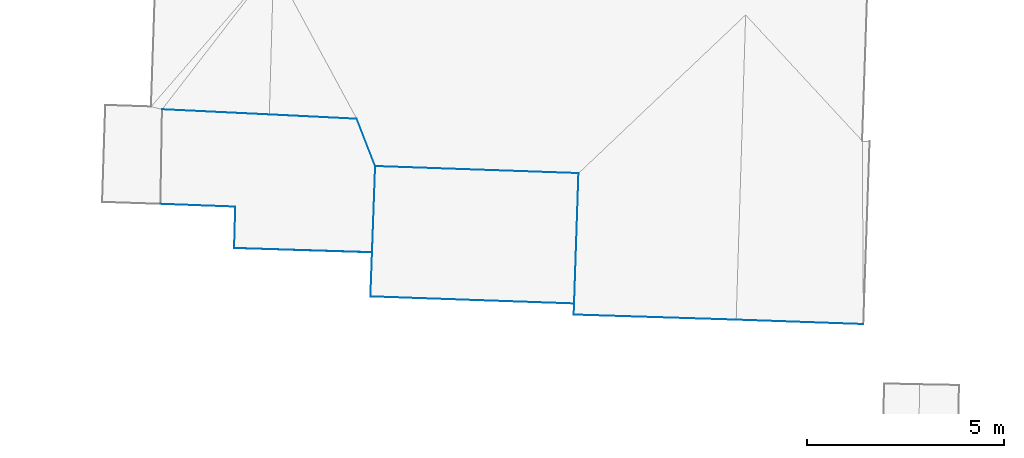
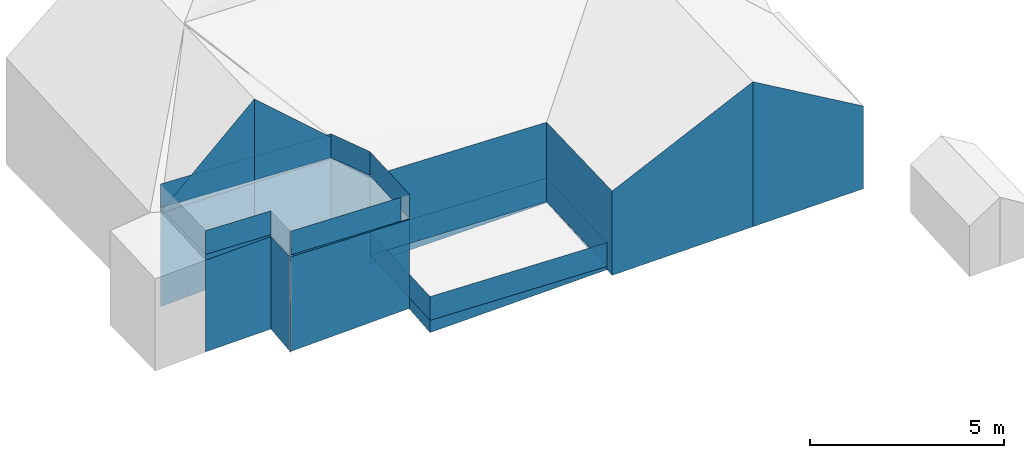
# Not in any storey, part 11 of 59: 42 walls.
"""IFC4 building model written with IfcOpenShell, lengths in metres."""

from ifc_helpers import new_model, entity, si_unit, converted_unit, origin, place, context, subcontext, project, spatial, face_set, surface_model, element, save


model = new_model("IFC4")

# Units and contexts
model_context = context("Model", 3, precision=1e-05, world=origin())
body_context = subcontext(model_context, "Body", "Model", "MODEL_VIEW")
ifc_project = project(units=[converted_unit("PLANEANGLEUNIT", "DEGREE", entity("IfcRatioMeasure", 0.0174532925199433), si_unit("PLANEANGLEUNIT", "RADIAN"), dimensions=[0, 0, 0, 0, 0, 0, 0]), si_unit("AREAUNIT", "SQUARE_METRE"), si_unit("LENGTHUNIT", "METRE")], contexts=[model_context])

# Site, building
site_placement = place(None, origin())
site = spatial("IfcSite", under=ifc_project, at=site_placement, Name="_site")
building_placement = place(site_placement, origin())
building = spatial("IfcBuilding", under=site, at=building_placement, Name="_building")

# Walls
wall_1_placement = place(building_placement, origin())
element("IfcWall", 1, at=wall_1_placement, inside=building, Name="Wall", PredefinedType="NOTDEFINED", context=body_context, shape_type="SurfaceModel", body=[
    surface_model("IfcFaceBasedSurfaceModel", [(115.01, 104.15, 217.53), (112.79, 104.259, 219.45), (112.79, 104.259, 216.808), (115.01, 104.15, 216.856)], [face_set([[[0, 1, 2, 3]]])]),
])
wall_2_placement = place(building_placement, origin())
element("IfcWall", 2, at=wall_2_placement, inside=building, Name="Wall", PredefinedType="NOTDEFINED", context=body_context, shape_type="SurfaceModel", body=[
    surface_model("IfcFaceBasedSurfaceModel", [(112.79, 104.259, 219.45), (110.07, 104.391, 216.76), (110.07, 104.391, 216.71), (112.79, 104.259, 216.808)], [face_set([[[0, 1, 2, 3]]])]),
])
wall_3_placement = place(building_placement, origin())
element("IfcWall", 3, at=wall_3_placement, inside=building, Name="Wall", PredefinedType="NOTDEFINED", context=body_context, shape_type="SurfaceModel", body=[
    surface_model("IfcFaceBasedSurfaceModel", [(115.48, 102.949, 216.89), (115.4, 100.76, 216.89), (115.4, 100.76, 217.64), (115.48, 102.949, 217.64)], [face_set([[[0, 1, 2, 3]]])]),
])
wall_4_placement = place(building_placement, origin())
element("IfcWall", 4, at=wall_4_placement, inside=building, Name="Wall", PredefinedType="NOTDEFINED", context=body_context, shape_type="SurfaceModel", body=[
    surface_model("IfcFaceBasedSurfaceModel", [(115.01, 104.15, 216.89), (115.48, 102.949, 216.89), (115.48, 102.949, 217.64), (115.01, 104.15, 217.64)], [face_set([[[0, 1, 2, 3]]])]),
])
wall_5_placement = place(building_placement, origin())
element("IfcWall", 5, at=wall_5_placement, inside=building, Name="Wall", PredefinedType="NOTDEFINED", context=body_context, shape_type="SurfaceModel", body=[
    surface_model("IfcFaceBasedSurfaceModel", [(112.79, 104.26, 216.89), (115.01, 104.15, 216.89), (115.01, 104.15, 217.64), (112.79, 104.26, 217.64)], [face_set([[[0, 1, 2, 3]]])]),
])
wall_6_placement = place(building_placement, origin())
element("IfcWall", 6, at=wall_6_placement, inside=building, Name="Wall", PredefinedType="NOTDEFINED", context=body_context, shape_type="SurfaceModel", body=[
    surface_model("IfcFaceBasedSurfaceModel", [(110.07, 104.391, 216.89), (112.79, 104.26, 216.89), (112.79, 104.26, 217.64), (110.07, 104.391, 217.64)], [face_set([[[0, 1, 2, 3]]])]),
])
wall_7_placement = place(building_placement, origin())
element("IfcWall", 7, at=wall_7_placement, inside=building, Name="Wall", PredefinedType="NOTDEFINED", context=body_context, shape_type="SurfaceModel", body=[
    surface_model("IfcFaceBasedSurfaceModel", [(111.93, 101.92, 216.89), (110.03, 101.99, 216.89), (110.03, 101.99, 217.64), (111.93, 101.92, 217.64)], [face_set([[[0, 1, 2, 3]]])]),
])
wall_8_placement = place(building_placement, origin())
element("IfcWall", 8, at=wall_8_placement, inside=building, Name="Wall", PredefinedType="NOTDEFINED", context=body_context, shape_type="SurfaceModel", body=[
    surface_model("IfcFaceBasedSurfaceModel", [(115.15, 100.77, 216.89), (111.93, 100.869, 216.89), (111.93, 100.869, 217.64), (115.15, 100.77, 217.64)], [face_set([[[0, 1, 2, 3]]])]),
])
wall_9_placement = place(building_placement, origin())
element("IfcWall", 9, at=wall_9_placement, inside=building, Name="Wall", PredefinedType="NOTDEFINED", context=body_context, shape_type="SurfaceModel", body=[
    surface_model("IfcFaceBasedSurfaceModel", [(115.48, 102.949, 216.89), (115.4, 100.76, 216.89), (115.4, 100.76, 217.64), (115.48, 102.949, 217.64)], [face_set([[[0, 1, 2, 3]]])]),
])
wall_10_placement = place(building_placement, origin())
element("IfcWall", 10, at=wall_10_placement, inside=building, Name="Wall", PredefinedType="NOTDEFINED", context=body_context, shape_type="SurfaceModel", body=[
    surface_model("IfcFaceBasedSurfaceModel", [(115.01, 104.15, 216.89), (115.48, 102.949, 216.89), (115.48, 102.949, 217.64), (115.01, 104.15, 217.64)], [face_set([[[0, 1, 2, 3]]])]),
])
wall_11_placement = place(building_placement, origin())
element("IfcWall", 11, at=wall_11_placement, inside=building, Name="Wall", PredefinedType="NOTDEFINED", context=body_context, shape_type="SurfaceModel", body=[
    surface_model("IfcFaceBasedSurfaceModel", [(112.79, 104.26, 216.89), (115.01, 104.15, 216.89), (115.01, 104.15, 217.64), (112.79, 104.26, 217.64)], [face_set([[[0, 1, 2, 3]]])]),
])
wall_12_placement = place(building_placement, origin())
element("IfcWall", 12, at=wall_12_placement, inside=building, Name="Wall", PredefinedType="NOTDEFINED", context=body_context, shape_type="SurfaceModel", body=[
    surface_model("IfcFaceBasedSurfaceModel", [(110.07, 104.391, 216.89), (112.79, 104.26, 216.89), (112.79, 104.26, 217.64), (110.07, 104.391, 217.64)], [face_set([[[0, 1, 2, 3]]])]),
])
wall_13_placement = place(building_placement, origin())
element("IfcWall", 13, at=wall_13_placement, inside=building, Name="Wall", PredefinedType="NOTDEFINED", context=body_context, shape_type="SurfaceModel", body=[
    surface_model("IfcFaceBasedSurfaceModel", [(111.93, 101.92, 216.89), (110.03, 101.99, 216.89), (110.03, 101.99, 217.64), (111.93, 101.92, 217.64)], [face_set([[[0, 1, 2, 3]]])]),
])
wall_14_placement = place(building_placement, origin())
element("IfcWall", 14, at=wall_14_placement, inside=building, Name="Wall", PredefinedType="NOTDEFINED", context=body_context, shape_type="SurfaceModel", body=[
    surface_model("IfcFaceBasedSurfaceModel", [(115.15, 100.77, 216.89), (111.93, 100.869, 216.89), (111.93, 100.869, 217.64), (115.15, 100.77, 217.64)], [face_set([[[0, 1, 2, 3]]])]),
])
wall_15_placement = place(building_placement, origin())
element("IfcWall", 15, at=wall_15_placement, inside=building, Name="Wall", PredefinedType="NOTDEFINED", context=body_context, shape_type="SurfaceModel", body=[
    surface_model("IfcFaceBasedSurfaceModel", [(115.48, 102.949, 216.86), (115.01, 104.15, 217.53), (115.01, 104.15, 216.856), (115.48, 102.949, 216.81)], [face_set([[[0, 1, 2, 3]]])]),
])
wall_16_placement = place(building_placement, origin())
element("IfcWall", 16, at=wall_16_placement, inside=building, Name="Wall", PredefinedType="NOTDEFINED", context=body_context, shape_type="SurfaceModel", body=[
    surface_model("IfcFaceBasedSurfaceModel", [(127.87, 98.939, 217.17), (124.64, 99.051, 219.0), (124.64, 99.051, 214.43), (127.87, 98.939, 214.564)], [face_set([[[0, 1, 2, 3]]])]),
])
wall_17_placement = place(building_placement, origin())
element("IfcWall", 17, at=wall_17_placement, inside=building, Name="Wall", PredefinedType="NOTDEFINED", context=body_context, shape_type="SurfaceModel", body=[
    surface_model("IfcFaceBasedSurfaceModel", [(124.64, 99.051, 219.0), (120.52, 99.18, 216.92), (120.52, 99.18, 214.261), (124.64, 99.051, 214.43)], [face_set([[[0, 1, 2, 3]]])]),
])
wall_18_placement = place(building_placement, origin())
element("IfcWall", 18, at=wall_18_placement, inside=building, Name="Wall", PredefinedType="NOTDEFINED", context=body_context, shape_type="SurfaceModel", body=[
    surface_model("IfcFaceBasedSurfaceModel", [(120.52, 99.18, 216.92), (120.64, 102.77, 216.87), (120.64, 102.77, 214.328), (120.52, 99.18, 214.261)], [face_set([[[0, 1, 2, 3]]])]),
])
wall_19_placement = place(building_placement, origin())
element("IfcWall", 19, at=wall_19_placement, inside=building, Name="Wall", PredefinedType="NOTDEFINED", context=body_context, shape_type="SurfaceModel", body=[
    surface_model("IfcFaceBasedSurfaceModel", [(115.01, 104.15, 216.89), (115.48, 102.949, 216.89), (115.48, 102.949, 214.102), (115.01, 104.15, 214.087)], [face_set([[[0, 1, 2, 3]]])]),
])
wall_20_placement = place(building_placement, origin())
element("IfcWall", 20, at=wall_20_placement, inside=building, Name="Wall", PredefinedType="NOTDEFINED", context=body_context, shape_type="SurfaceModel", body=[
    surface_model("IfcFaceBasedSurfaceModel", [(120.64, 102.77, 216.87), (115.48, 102.949, 216.86), (115.48, 102.949, 214.102), (120.64, 102.77, 214.328)], [face_set([[[0, 1, 2, 3]]])]),
])
wall_21_placement = place(building_placement, origin())
element("IfcWall", 21, at=wall_21_placement, inside=building, Name="Wall", PredefinedType="NOTDEFINED", context=body_context, shape_type="SurfaceModel", body=[
    surface_model("IfcFaceBasedSurfaceModel", [(115.48, 102.949, 216.89), (115.4, 100.76, 216.89), (115.4, 100.76, 214.059), (115.48, 102.949, 214.102)], [face_set([[[0, 1, 2, 3]]])]),
])
wall_22_placement = place(building_placement, origin())
element("IfcWall", 22, at=wall_22_placement, inside=building, Name="Wall", PredefinedType="NOTDEFINED", context=body_context, shape_type="SurfaceModel", body=[
    surface_model("IfcFaceBasedSurfaceModel", [(115.4, 100.76, 216.89), (115.15, 100.77, 216.89), (115.15, 100.77, 214.043), (115.4, 100.76, 214.059)], [face_set([[[0, 1, 2, 3]]])]),
])
wall_23_placement = place(building_placement, origin())
element("IfcWall", 23, at=wall_23_placement, inside=building, Name="Wall", PredefinedType="NOTDEFINED", context=body_context, shape_type="SurfaceModel", body=[
    surface_model("IfcFaceBasedSurfaceModel", [(115.48, 102.949, 216.86), (115.4, 100.76, 216.86), (115.4, 100.76, 214.059), (115.48, 102.949, 214.102)], [face_set([[[0, 1, 2, 3]]])]),
])
wall_24_placement = place(building_placement, origin())
element("IfcWall", 24, at=wall_24_placement, inside=building, Name="Wall", PredefinedType="NOTDEFINED", context=body_context, shape_type="SurfaceModel", body=[
    surface_model("IfcFaceBasedSurfaceModel", [(112.79, 104.26, 216.89), (115.01, 104.15, 216.89), (115.01, 104.15, 214.087), (112.79, 104.26, 213.997)], [face_set([[[0, 1, 2, 3]]])]),
])
wall_25_placement = place(building_placement, origin())
element("IfcWall", 25, at=wall_25_placement, inside=building, Name="Wall", PredefinedType="NOTDEFINED", context=body_context, shape_type="SurfaceModel", body=[
    surface_model("IfcFaceBasedSurfaceModel", [(115.15, 100.77, 216.89), (111.93, 100.869, 216.89), (111.93, 100.869, 213.851), (115.15, 100.77, 214.043)], [face_set([[[0, 1, 2, 3]]])]),
])
wall_26_placement = place(building_placement, origin())
element("IfcWall", 26, at=wall_26_placement, inside=building, Name="Wall", PredefinedType="NOTDEFINED", context=body_context, shape_type="SurfaceModel", body=[
    surface_model("IfcFaceBasedSurfaceModel", [(111.93, 101.92, 216.89), (110.03, 101.99, 216.89), (110.03, 101.99, 213.82), (111.93, 101.92, 213.915)], [face_set([[[0, 1, 2, 3]]])]),
])
wall_27_placement = place(building_placement, origin())
element("IfcWall", 27, at=wall_27_placement, inside=building, Name="Wall", PredefinedType="NOTDEFINED", context=body_context, shape_type="SurfaceModel", body=[
    surface_model("IfcFaceBasedSurfaceModel", [(115.4, 100.76, 216.86), (111.9, 100.869, 216.83), (111.9, 100.869, 213.85), (115.4, 100.76, 214.059)], [face_set([[[0, 1, 2, 3]]])]),
])
wall_28_placement = place(building_placement, origin())
element("IfcWall", 28, at=wall_28_placement, inside=building, Name="Wall", PredefinedType="NOTDEFINED", context=body_context, shape_type="SurfaceModel", body=[
    surface_model("IfcFaceBasedSurfaceModel", [(111.9, 100.869, 216.83), (111.93, 101.92, 216.83), (111.93, 101.92, 213.915), (111.9, 100.869, 213.85)], [face_set([[[0, 1, 2, 3]]])]),
])
wall_29_placement = place(building_placement, origin())
element("IfcWall", 29, at=wall_29_placement, inside=building, Name="Wall", PredefinedType="NOTDEFINED", context=body_context, shape_type="SurfaceModel", body=[
    surface_model("IfcFaceBasedSurfaceModel", [(110.07, 104.391, 216.89), (112.79, 104.26, 216.89), (112.79, 104.26, 213.997), (110.07, 104.391, 213.774)], [face_set([[[0, 1, 2, 3]]])]),
])
wall_30_placement = place(building_placement, origin())
element("IfcWall", 30, at=wall_30_placement, inside=building, Name="Wall", PredefinedType="NOTDEFINED", context=body_context, shape_type="SurfaceModel", body=[
    surface_model("IfcFaceBasedSurfaceModel", [(111.93, 101.92, 216.83), (110.03, 101.99, 216.71), (110.03, 101.99, 213.82), (111.93, 101.92, 213.915)], [face_set([[[0, 1, 2, 3]]])]),
])
wall_31_placement = place(building_placement, origin())
element("IfcWall", 31, at=wall_31_placement, inside=building, Name="Wall", PredefinedType="NOTDEFINED", context=body_context, shape_type="SurfaceModel", body=[
    surface_model("IfcFaceBasedSurfaceModel", [(120.64, 102.77, 214.37), (120.53, 99.461, 214.37), (120.53, 99.461, 215.12), (120.64, 102.77, 215.12)], [face_set([[[0, 1, 2, 3]]])]),
])
wall_32_placement = place(building_placement, origin())
element("IfcWall", 32, at=wall_32_placement, inside=building, Name="Wall", PredefinedType="NOTDEFINED", context=body_context, shape_type="SurfaceModel", body=[
    surface_model("IfcFaceBasedSurfaceModel", [(115.48, 102.949, 214.37), (120.64, 102.77, 214.37), (120.64, 102.77, 215.12), (115.48, 102.949, 215.12)], [face_set([[[0, 1, 2, 3]]])]),
])
wall_33_placement = place(building_placement, origin())
element("IfcWall", 33, at=wall_33_placement, inside=building, Name="Wall", PredefinedType="NOTDEFINED", context=body_context, shape_type="SurfaceModel", body=[
    surface_model("IfcFaceBasedSurfaceModel", [(115.36, 99.641, 214.37), (115.48, 102.949, 214.37), (115.48, 102.949, 215.12), (115.36, 99.641, 215.12)], [face_set([[[0, 1, 2, 3]]])]),
])
wall_34_placement = place(building_placement, origin())
element("IfcWall", 34, at=wall_34_placement, inside=building, Name="Wall", PredefinedType="NOTDEFINED", context=body_context, shape_type="SurfaceModel", body=[
    surface_model("IfcFaceBasedSurfaceModel", [(120.53, 99.461, 214.37), (115.36, 99.641, 214.37), (115.36, 99.641, 215.12), (120.53, 99.461, 215.12)], [face_set([[[0, 1, 2, 3]]])]),
])
wall_35_placement = place(building_placement, origin())
element("IfcWall", 35, at=wall_35_placement, inside=building, Name="Wall", PredefinedType="NOTDEFINED", context=body_context, shape_type="SurfaceModel", body=[
    surface_model("IfcFaceBasedSurfaceModel", [(120.64, 102.77, 214.37), (120.53, 99.461, 214.37), (120.53, 99.461, 215.12), (120.64, 102.77, 215.12)], [face_set([[[0, 1, 2, 3]]])]),
])
wall_36_placement = place(building_placement, origin())
element("IfcWall", 36, at=wall_36_placement, inside=building, Name="Wall", PredefinedType="NOTDEFINED", context=body_context, shape_type="SurfaceModel", body=[
    surface_model("IfcFaceBasedSurfaceModel", [(115.48, 102.949, 214.37), (120.64, 102.77, 214.37), (120.64, 102.77, 215.12), (115.48, 102.949, 215.12)], [face_set([[[0, 1, 2, 3]]])]),
])
wall_37_placement = place(building_placement, origin())
element("IfcWall", 37, at=wall_37_placement, inside=building, Name="Wall", PredefinedType="NOTDEFINED", context=body_context, shape_type="SurfaceModel", body=[
    surface_model("IfcFaceBasedSurfaceModel", [(115.36, 99.641, 214.37), (115.48, 102.949, 214.37), (115.48, 102.949, 215.12), (115.36, 99.641, 215.12)], [face_set([[[0, 1, 2, 3]]])]),
])
wall_38_placement = place(building_placement, origin())
element("IfcWall", 38, at=wall_38_placement, inside=building, Name="Wall", PredefinedType="NOTDEFINED", context=body_context, shape_type="SurfaceModel", body=[
    surface_model("IfcFaceBasedSurfaceModel", [(120.53, 99.461, 214.37), (115.36, 99.641, 214.37), (115.36, 99.641, 215.12), (120.53, 99.461, 215.12)], [face_set([[[0, 1, 2, 3]]])]),
])
wall_39_placement = place(building_placement, origin())
element("IfcWall", 39, at=wall_39_placement, inside=building, Name="Wall", PredefinedType="NOTDEFINED", context=body_context, shape_type="SurfaceModel", body=[
    surface_model("IfcFaceBasedSurfaceModel", [(120.64, 102.77, 214.37), (120.53, 99.461, 214.37), (120.53, 99.461, 214.267), (120.64, 102.77, 214.328)], [face_set([[[0, 1, 2, 3]]])]),
])
wall_40_placement = place(building_placement, origin())
element("IfcWall", 40, at=wall_40_placement, inside=building, Name="Wall", PredefinedType="NOTDEFINED", context=body_context, shape_type="SurfaceModel", body=[
    surface_model("IfcFaceBasedSurfaceModel", [(115.48, 102.949, 214.37), (120.64, 102.77, 214.37), (120.64, 102.77, 214.328), (115.48, 102.949, 214.102)], [face_set([[[0, 1, 2, 3]]])]),
])
wall_41_placement = place(building_placement, origin())
element("IfcWall", 41, at=wall_41_placement, inside=building, Name="Wall", PredefinedType="NOTDEFINED", context=body_context, shape_type="SurfaceModel", body=[
    surface_model("IfcFaceBasedSurfaceModel", [(115.36, 99.641, 214.37), (115.48, 102.949, 214.37), (115.48, 102.949, 214.102), (115.36, 99.641, 213.984)], [face_set([[[0, 1, 2, 3]]])]),
])
wall_42_placement = place(building_placement, origin())
element("IfcWall", 42, at=wall_42_placement, inside=building, Name="Wall", PredefinedType="NOTDEFINED", context=body_context, shape_type="SurfaceModel", body=[
    surface_model("IfcFaceBasedSurfaceModel", [(120.53, 99.461, 214.37), (115.36, 99.641, 214.37), (115.36, 99.641, 213.984), (120.53, 99.461, 214.267)], [face_set([[[0, 1, 2, 3]]])]),
])

save(model, "model.ifc")
